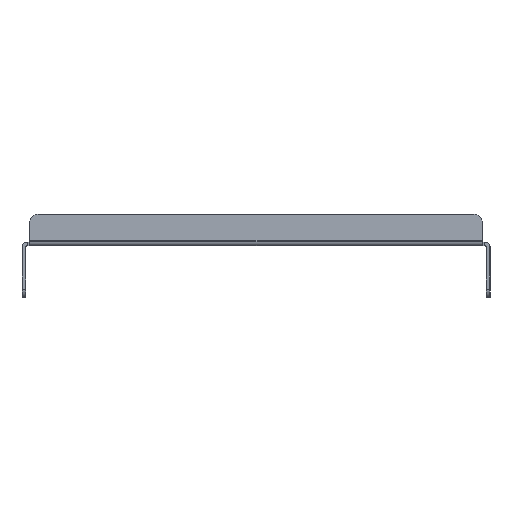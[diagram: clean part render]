
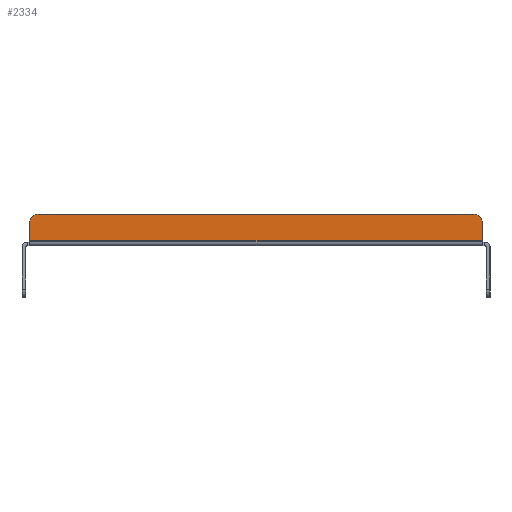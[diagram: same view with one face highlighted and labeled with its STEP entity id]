
A CAD part, left-side view. The second image highlights one B-rep face of the part: STEP entity #2334.
In plain terms, the highlighted planar face has unit normal (-1, 0, 0).
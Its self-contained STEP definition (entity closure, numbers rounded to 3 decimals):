
#48 = DIRECTION ( 'NONE',  ( 0., 0., 1. ) ) ;
#86 = LINE ( 'NONE', #466, #703 ) ;
#174 = DIRECTION ( 'NONE',  ( 0., 1., 0. ) ) ;
#236 = ORIENTED_EDGE ( 'NONE', *, *, #760, .F. ) ;
#268 = DIRECTION ( 'NONE',  ( 0., 0., -1. ) ) ;
#272 = VERTEX_POINT ( 'NONE', #2499 ) ;
#295 = VERTEX_POINT ( 'NONE', #1459 ) ;
#403 = CARTESIAN_POINT ( 'NONE',  ( -249., -146.423, 18. ) ) ;
#404 = ORIENTED_EDGE ( 'NONE', *, *, #437, .T. ) ;
#437 = EDGE_CURVE ( 'NONE', #1597, #2245, #783, .T. ) ;
#452 = VECTOR ( 'NONE', #268, 1000. ) ;
#455 = EDGE_CURVE ( 'NONE', #272, #1588, #2428, .T. ) ;
#466 = CARTESIAN_POINT ( 'NONE',  ( -249., 128.25, 0. ) ) ;
#571 = AXIS2_PLACEMENT_3D ( 'NONE', #1323, #2812, #1531 ) ;
#647 = PLANE ( 'NONE',  #571 ) ;
#686 = ORIENTED_EDGE ( 'NONE', *, *, #455, .T. ) ;
#703 = VECTOR ( 'NONE', #2626, 1000. ) ;
#708 = VECTOR ( 'NONE', #2790, 1000. ) ;
#744 = AXIS2_PLACEMENT_3D ( 'NONE', #1253, #2739, #1475 ) ;
#760 = EDGE_CURVE ( 'NONE', #1552, #2245, #1062, .T. ) ;
#783 = LINE ( 'NONE', #1714, #708 ) ;
#801 = ORIENTED_EDGE ( 'NONE', *, *, #1544, .T. ) ;
#811 = CARTESIAN_POINT ( 'NONE',  ( -249., -128.25, 13. ) ) ;
#831 = AXIS2_PLACEMENT_3D ( 'NONE', #2669, #1409, #48 ) ;
#835 = CARTESIAN_POINT ( 'NONE',  ( -249., -128.25, 2.5 ) ) ;
#1062 = LINE ( 'NONE', #2653, #452 ) ;
#1098 = CIRCLE ( 'NONE', #831, 5. ) ;
#1253 = CARTESIAN_POINT ( 'NONE',  ( -249., 123.25, 13. ) ) ;
#1323 = CARTESIAN_POINT ( 'NONE',  ( -249., -146.423, 0. ) ) ;
#1373 = CIRCLE ( 'NONE', #744, 5. ) ;
#1409 = DIRECTION ( 'NONE',  ( -1., 0., 0. ) ) ;
#1420 = ORIENTED_EDGE ( 'NONE', *, *, #2579, .T. ) ;
#1442 = CARTESIAN_POINT ( 'NONE',  ( -249., 128.25, 2.5 ) ) ;
#1459 = CARTESIAN_POINT ( 'NONE',  ( -249., 128.25, 13. ) ) ;
#1475 = DIRECTION ( 'NONE',  ( 0., 0., 1. ) ) ;
#1531 = DIRECTION ( 'NONE',  ( 0., 0., 1. ) ) ;
#1544 = EDGE_CURVE ( 'NONE', #1588, #295, #1373, .T. ) ;
#1552 = VERTEX_POINT ( 'NONE', #811 ) ;
#1588 = VERTEX_POINT ( 'NONE', #1854 ) ;
#1597 = VERTEX_POINT ( 'NONE', #1442 ) ;
#1624 = FACE_OUTER_BOUND ( 'NONE', #1912, .T. ) ;
#1714 = CARTESIAN_POINT ( 'NONE',  ( -249., -146.423, 2.5 ) ) ;
#1854 = CARTESIAN_POINT ( 'NONE',  ( -249., 123.25, 18. ) ) ;
#1912 = EDGE_LOOP ( 'NONE', ( #236, #1420, #686, #801, #2524, #404 ) ) ;
#2245 = VERTEX_POINT ( 'NONE', #835 ) ;
#2334 = ADVANCED_FACE ( 'NONE', ( #1624 ), #647, .T. ) ;
#2361 = VECTOR ( 'NONE', #174, 1000. ) ;
#2428 = LINE ( 'NONE', #403, #2361 ) ;
#2496 = EDGE_CURVE ( 'NONE', #1597, #295, #86, .T. ) ;
#2499 = CARTESIAN_POINT ( 'NONE',  ( -249., -123.25, 18. ) ) ;
#2524 = ORIENTED_EDGE ( 'NONE', *, *, #2496, .F. ) ;
#2579 = EDGE_CURVE ( 'NONE', #1552, #272, #1098, .T. ) ;
#2626 = DIRECTION ( 'NONE',  ( 0., 0., 1. ) ) ;
#2653 = CARTESIAN_POINT ( 'NONE',  ( -249., -128.25, 0. ) ) ;
#2669 = CARTESIAN_POINT ( 'NONE',  ( -249., -123.25, 13. ) ) ;
#2739 = DIRECTION ( 'NONE',  ( -1., 0., 0. ) ) ;
#2790 = DIRECTION ( 'NONE',  ( 0., -1., 0. ) ) ;
#2812 = DIRECTION ( 'NONE',  ( -1., 0., 0. ) ) ;
